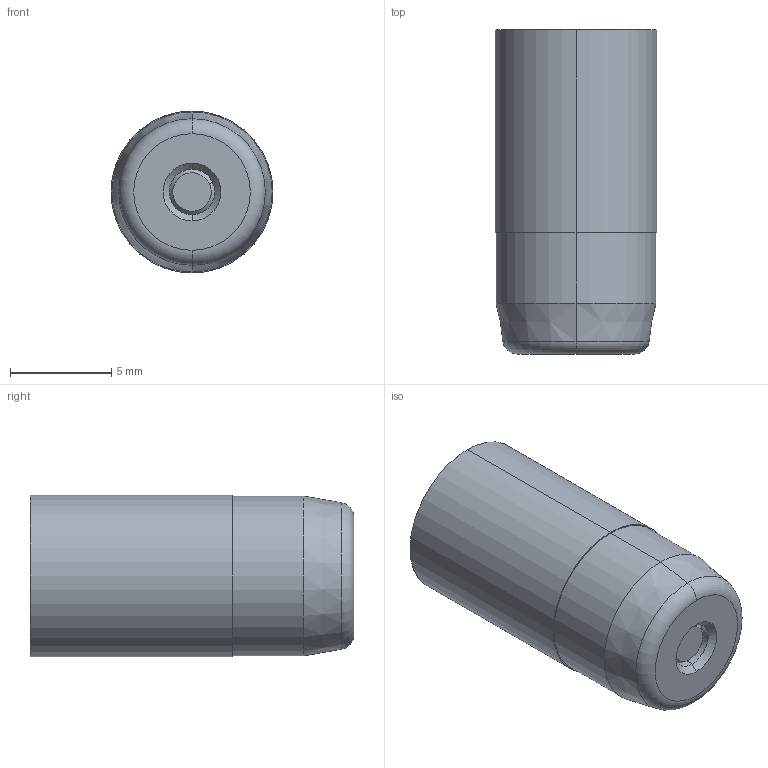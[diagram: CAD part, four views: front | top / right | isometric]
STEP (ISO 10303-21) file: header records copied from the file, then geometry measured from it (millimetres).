
FILE_DESCRIPTION (( 'STEP AP214' ), '1' );
FILE_NAME ('FX084712-21.STEP', '2020-08-14T07:50:40', ( '' ), ( '' ), 'SwSTEP 2.0', 'SolidWorks 2019', '' );
FILE_SCHEMA (( 'AUTOMOTIVE_DESIGN' ));
Length unit declared in the file: millimetre
Products named in the file (4): D9FX084705-..; DJTVITON4x1; FX084712-21; DIX4715SF
Assembly tree (3 placements, depth 2):
  FX084712-21
    D9FX084705-..
    DIX4715SF
    DJTVITON4x1
Bounding box: 8 x 16 x 8 mm (x, y, z)
Volume: 723.1 mm3; surface area: 947.9 mm2
Topology: 3 solids, 3 shells, 272 faces, 693 edges, 450 vertices
Faces by surface type: bspline 118, plane 108, cylinder 22, cone 18, torus 6
Entity records: 14005 total; most frequent: CARTESIAN_POINT 7995, ORIENTED_EDGE 1386, DIRECTION 839, EDGE_CURVE 693, VERTEX_POINT 450, LINE 395, VECTOR 395, EDGE_LOOP 299
